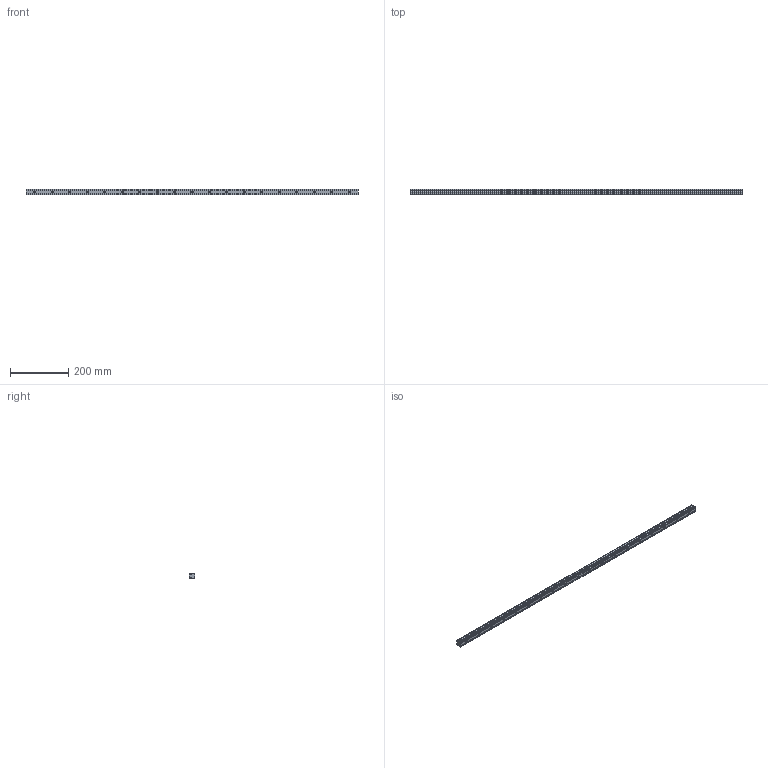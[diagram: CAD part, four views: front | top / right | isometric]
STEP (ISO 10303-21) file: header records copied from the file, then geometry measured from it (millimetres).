
FILE_DESCRIPTION (( 'STEP AP203' ), '1' );
FILE_NAME ('L1018.20R-1140.step', '2023-08-06T09:07:28', ( '' ), ( '' ), 'SwSTEP 2.0', 'SolidWorks 2019', '' );
FILE_SCHEMA (( 'CONFIG_CONTROL_DESIGN' ));
Length unit declared in the file: millimetre
Products named in the file (1): L1018.20R-1140
Bounding box: 1140 x 19.3 x 20 mm (x, y, z)
Volume: 361526.2 mm3; surface area: 96853.5 mm2
Topology: 1 solids, 1 shells, 200 faces, 461 edges, 263 vertices
Faces by surface type: cylinder 79, cone 76, plane 45
Entity records: 5444 total; most frequent: DIRECTION 1021, CARTESIAN_POINT 887, ORIENTED_EDGE 846, EDGE_CURVE 423, AXIS2_PLACEMENT_3D 397, VERTEX_POINT 263, EDGE_LOOP 238, LINE 227
